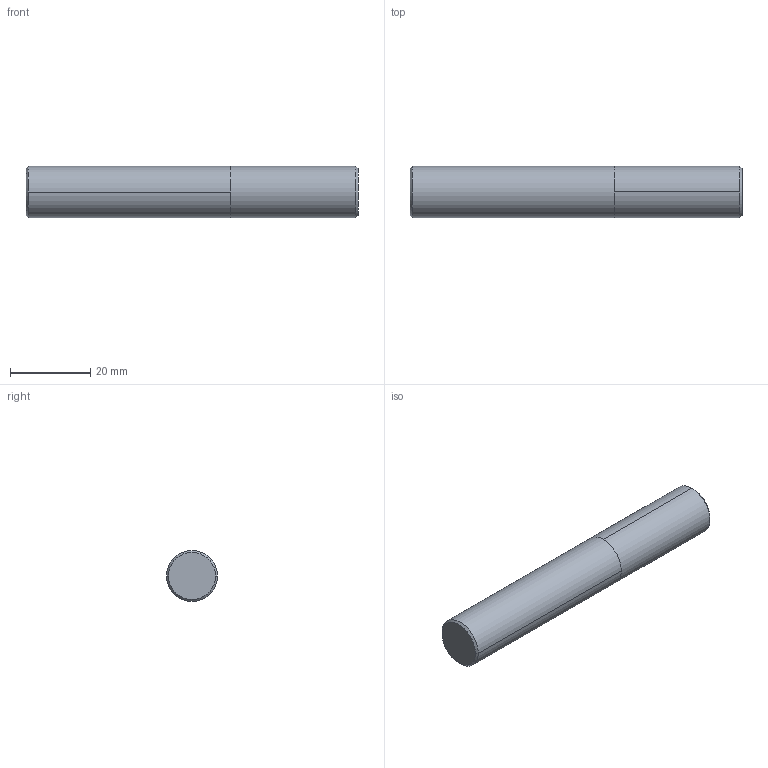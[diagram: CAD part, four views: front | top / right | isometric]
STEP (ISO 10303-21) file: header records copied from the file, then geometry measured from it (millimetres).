
FILE_DESCRIPTION (( 'STEP AP214' ), '1' );
FILE_NAME ('E2170032.STEP', '2018-08-08T06:44:24', ( 'USER' ), ( '' ), 'SwSTEP 2.0', 'SolidWorks 2014', '' );
FILE_SCHEMA (( 'AUTOMOTIVE_DESIGN' ));
Length unit declared in the file: millimetre
Products named in the file (1): E2170032
Bounding box: 82.55 x 12.7 x 12.7 mm (x, y, z)
Volume: 10446.3 mm3; surface area: 3774.8 mm2
Topology: 2 solids, 2 shells, 12 faces, 20 edges, 12 vertices
Faces by surface type: cylinder 4, cone 4, plane 4
Entity records: 393 total; most frequent: DIRECTION 58, CARTESIAN_POINT 45, ORIENTED_EDGE 40, AXIS2_PLACEMENT_3D 25, EDGE_CURVE 20, FACE_OUTER_BOUND 12, ADVANCED_FACE 12, CIRCLE 12
